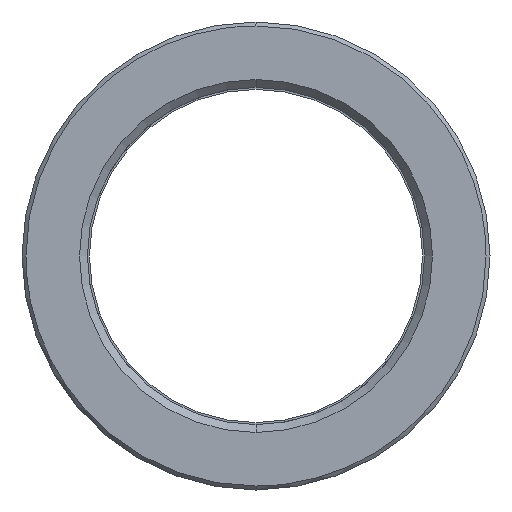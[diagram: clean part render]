
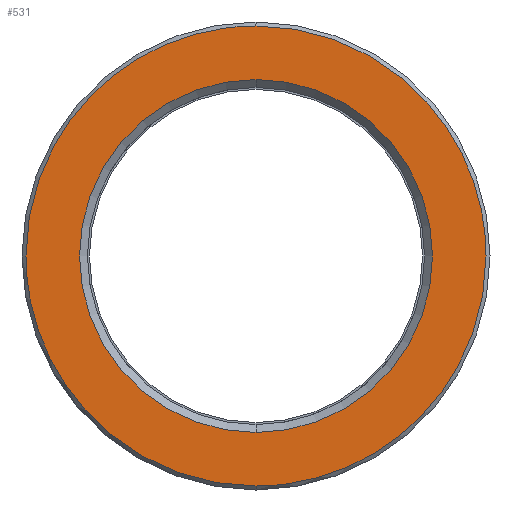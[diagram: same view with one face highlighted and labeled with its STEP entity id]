
A CAD part, left-side view. The second image highlights one B-rep face of the part: STEP entity #531.
In plain terms, the highlighted planar face has unit normal (-1, 0, 0).
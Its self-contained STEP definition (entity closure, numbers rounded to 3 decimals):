
#311=CARTESIAN_POINT('Axis2P3D Location',(0.,0.,0.)) ;
#315=CARTESIAN_POINT('Vertex',(0.,22.25,0.)) ;
#317=CARTESIAN_POINT('Vertex',(0.,0.,22.25)) ;
#320=CARTESIAN_POINT('Axis2P3D Location',(0.,0.,0.)) ;
#324=CARTESIAN_POINT('Vertex',(0.,0.,-22.25)) ;
#351=CARTESIAN_POINT('Axis2P3D Location',(0.,0.,0.)) ;
#355=CARTESIAN_POINT('Vertex',(0.,-22.25,0.)) ;
#358=CARTESIAN_POINT('Axis2P3D Location',(0.,0.,0.)) ;
#438=CARTESIAN_POINT('Axis2P3D Location',(0.,29.,0.)) ;
#444=CARTESIAN_POINT('Control Point',(0.,0.,-29.)) ;
#445=CARTESIAN_POINT('Control Point',(0.,1.442,-29.)) ;
#446=CARTESIAN_POINT('Control Point',(0.,2.884,-28.91)) ;
#447=CARTESIAN_POINT('Control Point',(0.,4.319,-28.731)) ;
#448=CARTESIAN_POINT('Control Point',(0.,8.336,-27.973)) ;
#449=CARTESIAN_POINT('Control Point',(0.,12.177,-26.519)) ;
#450=CARTESIAN_POINT('Control Point',(0.,14.542,-25.299)) ;
#451=CARTESIAN_POINT('Control Point',(0.,18.954,-22.344)) ;
#452=CARTESIAN_POINT('Control Point',(0.,22.589,-18.473)) ;
#453=CARTESIAN_POINT('Control Point',(0.,24.178,-16.338)) ;
#454=CARTESIAN_POINT('Control Point',(0.,26.719,-11.959)) ;
#455=CARTESIAN_POINT('Control Point',(0.,28.26,-7.143)) ;
#456=CARTESIAN_POINT('Control Point',(0.,28.753,-4.784)) ;
#457=CARTESIAN_POINT('Control Point',(0.,29.,-2.392)) ;
#458=CARTESIAN_POINT('Control Point',(0.,29.,0.)) ;
#459=CARTESIAN_POINT('Vertex',(0.,0.,-29.)) ;
#461=CARTESIAN_POINT('Vertex',(0.,29.,0.)) ;
#465=CARTESIAN_POINT('Control Point',(0.,-29.,0.)) ;
#466=CARTESIAN_POINT('Control Point',(0.,-29.,-2.638)) ;
#467=CARTESIAN_POINT('Control Point',(0.,-28.7,-5.276)) ;
#468=CARTESIAN_POINT('Control Point',(0.,-28.1,-7.869)) ;
#469=CARTESIAN_POINT('Control Point',(0.,-26.321,-12.873)) ;
#470=CARTESIAN_POINT('Control Point',(0.,-23.464,-17.349)) ;
#471=CARTESIAN_POINT('Control Point',(0.,-21.786,-19.414)) ;
#472=CARTESIAN_POINT('Control Point',(0.,-17.989,-23.127)) ;
#473=CARTESIAN_POINT('Control Point',(0.,-13.456,-25.893)) ;
#474=CARTESIAN_POINT('Control Point',(0.,-11.041,-27.012)) ;
#475=CARTESIAN_POINT('Control Point',(0.,-7.377,-28.223)) ;
#476=CARTESIAN_POINT('Control Point',(0.,-3.584,-28.815)) ;
#477=CARTESIAN_POINT('Control Point',(0.,-2.392,-28.938)) ;
#478=CARTESIAN_POINT('Control Point',(0.,-1.196,-29.)) ;
#479=CARTESIAN_POINT('Control Point',(0.,0.,-29.)) ;
#480=CARTESIAN_POINT('Vertex',(0.,-29.,0.)) ;
#484=CARTESIAN_POINT('Control Point',(0.,0.,29.)) ;
#485=CARTESIAN_POINT('Control Point',(0.,-1.442,29.)) ;
#486=CARTESIAN_POINT('Control Point',(0.,-2.884,28.91)) ;
#487=CARTESIAN_POINT('Control Point',(0.,-4.319,28.731)) ;
#488=CARTESIAN_POINT('Control Point',(0.,-8.336,27.973)) ;
#489=CARTESIAN_POINT('Control Point',(0.,-12.177,26.519)) ;
#490=CARTESIAN_POINT('Control Point',(0.,-14.542,25.299)) ;
#491=CARTESIAN_POINT('Control Point',(0.,-18.954,22.344)) ;
#492=CARTESIAN_POINT('Control Point',(0.,-22.589,18.473)) ;
#493=CARTESIAN_POINT('Control Point',(0.,-24.178,16.338)) ;
#494=CARTESIAN_POINT('Control Point',(0.,-26.719,11.959)) ;
#495=CARTESIAN_POINT('Control Point',(0.,-28.26,7.143)) ;
#496=CARTESIAN_POINT('Control Point',(0.,-28.753,4.784)) ;
#497=CARTESIAN_POINT('Control Point',(0.,-29.,2.392)) ;
#498=CARTESIAN_POINT('Control Point',(0.,-29.,0.)) ;
#499=CARTESIAN_POINT('Vertex',(0.,0.,29.)) ;
#503=CARTESIAN_POINT('Control Point',(0.,29.,0.)) ;
#504=CARTESIAN_POINT('Control Point',(0.,29.,2.638)) ;
#505=CARTESIAN_POINT('Control Point',(0.,28.7,5.276)) ;
#506=CARTESIAN_POINT('Control Point',(0.,28.1,7.869)) ;
#507=CARTESIAN_POINT('Control Point',(0.,26.321,12.873)) ;
#508=CARTESIAN_POINT('Control Point',(0.,23.464,17.349)) ;
#509=CARTESIAN_POINT('Control Point',(0.,21.786,19.414)) ;
#510=CARTESIAN_POINT('Control Point',(0.,17.989,23.127)) ;
#511=CARTESIAN_POINT('Control Point',(0.,13.456,25.893)) ;
#512=CARTESIAN_POINT('Control Point',(0.,11.041,27.012)) ;
#513=CARTESIAN_POINT('Control Point',(0.,7.377,28.223)) ;
#514=CARTESIAN_POINT('Control Point',(0.,3.584,28.815)) ;
#515=CARTESIAN_POINT('Control Point',(0.,2.392,28.938)) ;
#516=CARTESIAN_POINT('Control Point',(0.,1.196,29.)) ;
#517=CARTESIAN_POINT('Control Point',(0.,0.,29.)) ;
#312=DIRECTION('Axis2P3D Direction',(-1.,0.,0.)) ;
#321=DIRECTION('Axis2P3D Direction',(-1.,0.,0.)) ;
#352=DIRECTION('Axis2P3D Direction',(-1.,0.,0.)) ;
#359=DIRECTION('Axis2P3D Direction',(-1.,0.,0.)) ;
#439=DIRECTION('Axis2P3D Direction',(-1.,0.,0.)) ;
#440=DIRECTION('Axis2P3D XDirection',(0.,0.,1.)) ;
#313=AXIS2_PLACEMENT_3D('Circle Axis2P3D',#311,#312,$) ;
#322=AXIS2_PLACEMENT_3D('Circle Axis2P3D',#320,#321,$) ;
#353=AXIS2_PLACEMENT_3D('Circle Axis2P3D',#351,#352,$) ;
#360=AXIS2_PLACEMENT_3D('Circle Axis2P3D',#358,#359,$) ;
#441=AXIS2_PLACEMENT_3D('Plane Axis2P3D',#438,#439,#440) ;
#520=ORIENTED_EDGE('',*,*,#463,.F.) ;
#521=ORIENTED_EDGE('',*,*,#482,.F.) ;
#522=ORIENTED_EDGE('',*,*,#501,.F.) ;
#523=ORIENTED_EDGE('',*,*,#518,.F.) ;
#526=ORIENTED_EDGE('',*,*,#319,.T.) ;
#527=ORIENTED_EDGE('',*,*,#362,.T.) ;
#528=ORIENTED_EDGE('',*,*,#357,.T.) ;
#529=ORIENTED_EDGE('',*,*,#326,.T.) ;
#530=FACE_BOUND('',#525,.T.) ;
#531=ADVANCED_FACE('553-42X196',(#524,#530),#442,.T.) ;
#443=B_SPLINE_CURVE_WITH_KNOTS('',5,(#444,#445,#446,#447,#448,#449,#450,#451,#452,#453,#454,#455,#456,#457,#458),.UNSPECIFIED.,.F.,.U.,(6,3,3,3,6),(64.421,74.618,93.273,111.928,128.843),.UNSPECIFIED.) ;
#464=B_SPLINE_CURVE_WITH_KNOTS('',5,(#465,#466,#467,#468,#469,#470,#471,#472,#473,#474,#475,#476,#477,#478,#479),.UNSPECIFIED.,.F.,.U.,(6,3,3,3,6),(0.,18.655,37.309,55.964,64.421),.UNSPECIFIED.) ;
#483=B_SPLINE_CURVE_WITH_KNOTS('',5,(#484,#485,#486,#487,#488,#489,#490,#491,#492,#493,#494,#495,#496,#497,#498),.UNSPECIFIED.,.F.,.U.,(6,3,3,3,6),(64.421,74.618,93.273,111.928,128.843),.UNSPECIFIED.) ;
#502=B_SPLINE_CURVE_WITH_KNOTS('',5,(#503,#504,#505,#506,#507,#508,#509,#510,#511,#512,#513,#514,#515,#516,#517),.UNSPECIFIED.,.F.,.U.,(6,3,3,3,6),(0.,18.655,37.309,55.964,64.421),.UNSPECIFIED.) ;
#314=CIRCLE('generated circle',#313,22.25) ;
#323=CIRCLE('generated circle',#322,22.25) ;
#354=CIRCLE('generated circle',#353,22.25) ;
#361=CIRCLE('generated circle',#360,22.25) ;
#319=EDGE_CURVE('',#316,#318,#314,.F.) ;
#326=EDGE_CURVE('',#325,#316,#323,.F.) ;
#357=EDGE_CURVE('',#356,#325,#354,.F.) ;
#362=EDGE_CURVE('',#318,#356,#361,.F.) ;
#463=EDGE_CURVE('',#460,#462,#443,.T.) ;
#482=EDGE_CURVE('',#481,#460,#464,.T.) ;
#501=EDGE_CURVE('',#500,#481,#483,.T.) ;
#518=EDGE_CURVE('',#462,#500,#502,.T.) ;
#519=EDGE_LOOP('',(#520,#521,#522,#523)) ;
#525=EDGE_LOOP('',(#526,#527,#528,#529)) ;
#524=FACE_OUTER_BOUND('',#519,.T.) ;
#442=PLANE('Plane',#441) ;
#316=VERTEX_POINT('',#315) ;
#318=VERTEX_POINT('',#317) ;
#325=VERTEX_POINT('',#324) ;
#356=VERTEX_POINT('',#355) ;
#460=VERTEX_POINT('',#459) ;
#462=VERTEX_POINT('',#461) ;
#481=VERTEX_POINT('',#480) ;
#500=VERTEX_POINT('',#499) ;
